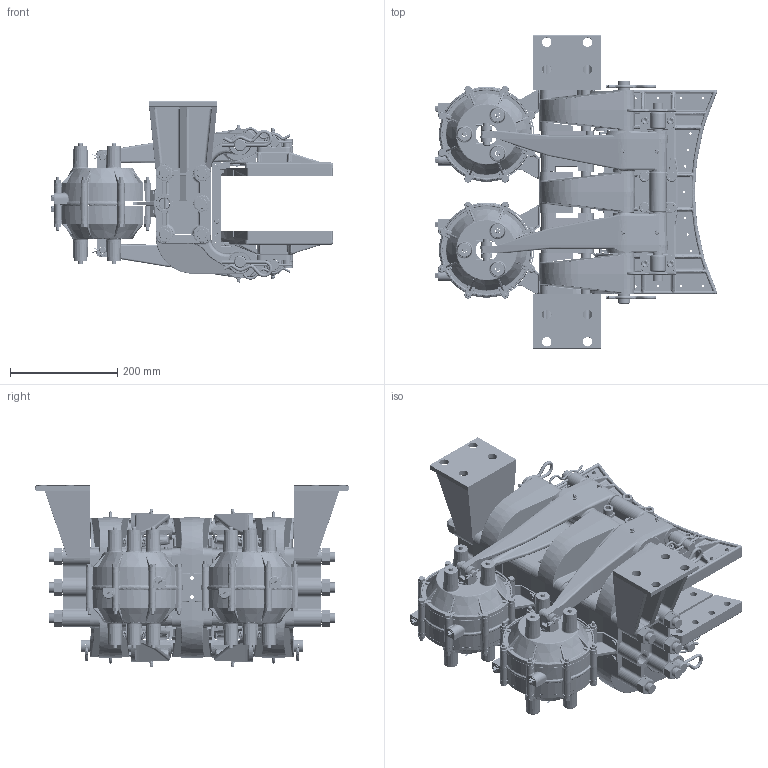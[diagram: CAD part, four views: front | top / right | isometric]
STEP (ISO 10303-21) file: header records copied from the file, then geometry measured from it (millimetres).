
FILE_DESCRIPTION (( 'STEP AP214' ), '1' );
FILE_NAME ('5026-AW.STEP', '2024-03-28T19:57:24', ( '' ), ( '' ), 'SwSTEP 2.0', 'SolidWorks 2023', '' );
FILE_SCHEMA (( 'AUTOMOTIVE_DESIGN' ));
Products named in the file (1): 5026-AW
Bounding box: 526.36 x 584.2 x 337.86 mm (x, y, z)
Surface area: 2279432.6 mm2 (no closed solid volume)
Topology: 0 solids, 290 shells, 5874 faces, 19033 edges, 12716 vertices
Faces by surface type: plane 1595, cylinder 1526, bspline 1269, cone 805, torus 633, sphere 46
Entity records: 335446 total; most frequent: CARTESIAN_POINT 186335, ORIENTED_EDGE 29710, DIRECTION 29027, EDGE_CURVE 18955, VERTEX_POINT 12716, AXIS2_PLACEMENT_3D 11712, CIRCLE 7106, EDGE_LOOP 6520
